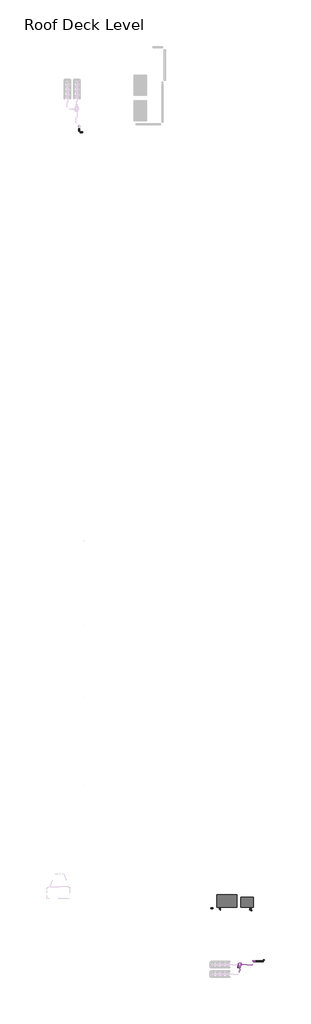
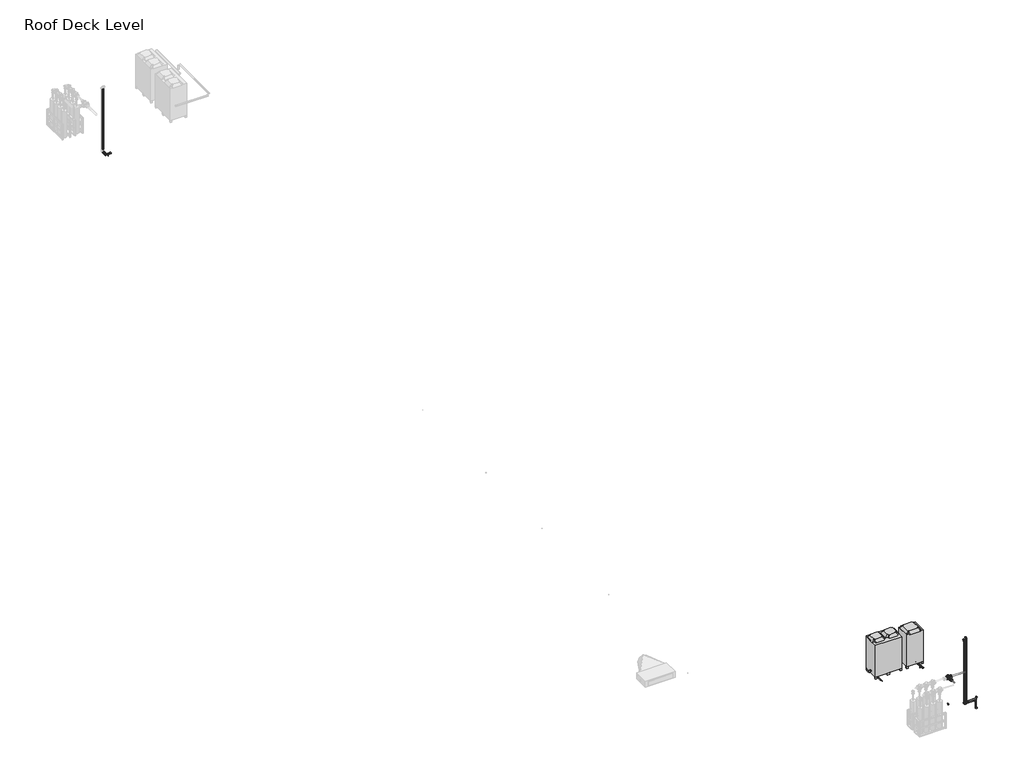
# One storey, part 2 of 3: 24 pipe segments, 21 pipe fittings, 2 proxies.
"""IFC4 building model written with IfcOpenShell, lengths in millimetres."""

from ifc_helpers import new_model, si_unit, point, frame, frame_2d, origin, place, context, project, spatial, circle_curve, trimmed, segment, composite_curve, outline, extrude, transform, mapped, element, save
from components import mechanical_equipment_0a6ad74e, mechanical_equipment_ce02502f, m_bend_pvc_sch_40_dwv_standard_cad9babd, m_elbow_generic_standard_bb5ffebe, m_elbow_generic_standard_738589b0, m_elbow_generic_standard_f0c60a04, m_reducer_flanged_cs_class_150_standard_13db1923, m_tee_generic_standard_5078887e, m_tee_generic_standard_bbfc025c, m_tee_round_base_flanged_cs_class_150_standard_dd767e04, m_transition_generic_standard_a7d161d7, m_transition_generic_standard_5f8a9689, m_transition_generic_standard_2351da66, m_transition_generic_standard_22c7c9f4, m_transition_generic_standard_e868cdd7, standard_57727813, standard_102e5625

model = new_model("IFC4")

# Units and contexts
model_context = context("Model", 3, world=origin())
ifc_project = project(units=[si_unit("LENGTHUNIT", "METRE", prefix="MILLI")], contexts=[model_context])

# Site, building, storey
site = spatial("IfcSite", under=ifc_project)
building = spatial("IfcBuilding", under=site)
storey = spatial("IfcBuildingStorey", under=building, Name="Roof Deck Level", Elevation=4400.0)

# Proxies
placement = place(None, origin())
mechanical_equipment_shape = mechanical_equipment_0a6ad74e(model_context)
element("IfcBuildingElementProxy", 1, Name="Condenser-Daikin-RXYQ5-8-10-12P : INVALID TYPE - Use Load Family and Type Catalog Instead", ObjectType="Condenser-Daikin-RXYQ5-8-10-12P : INVALID TYPE - Use Load Family and Type Catalog Instead", at=placement, inside=storey, context=model_context, shape_type="MappedRepresentation", body=[
    mapped(mechanical_equipment_shape, transform((4557.5244316, -32172.0946353, 4650.0), x_axis=(0.0, 1.0, 0.0), y_axis=(-1.0, 0.0, 0.0), z_axis=(0.0, 0.0, 1.0))),
])
mechanical_equipment_2_shape = mechanical_equipment_ce02502f(model_context)
element("IfcBuildingElementProxy", 2, Name="Condenser-Daikin-RXYQ14-16-18P : RXYQ14P, 400v/50Hz/3Ph", ObjectType="Condenser-Daikin-RXYQ14-16-18P : RXYQ14P, 400v/50Hz/3Ph", at=placement, inside=storey, context=model_context, shape_type="MappedRepresentation", body=[
    mapped(mechanical_equipment_2_shape, transform((3320.1659448, -32107.0946353, 4650.0), x_axis=(1.0, 0.0, 0.0), y_axis=(0.0, 1.0, 0.0), z_axis=(0.0, 0.0, 1.0))),
])

# Pipe fittings
m_bend_pvc_sch_40_dwv_standard_shape = m_bend_pvc_sch_40_dwv_standard_cad9babd(model_context)
element("IfcPipeFitting", 3, ObjectType="M_Bend - PVC - Sch 40 - DWV : Standard", at=placement, inside=storey, context=model_context, shape_type="MappedRepresentation", body=[
    mapped(m_bend_pvc_sch_40_dwv_standard_shape, transform((2381.9230162, -32554.2948449, 5200.0), x_axis=(-1.0, 0.0, 0.0), y_axis=(0.0, 0.0, -1.0), z_axis=(0.0, -1.0, 0.0))),
])
m_elbow_generic_standard_shape = m_elbow_generic_standard_bb5ffebe(model_context)
element("IfcPipeFitting", 4, ObjectType="M_Elbow - Generic : Standard", at=placement, inside=storey, context=model_context, shape_type="MappedRepresentation", body=[
    mapped(m_elbow_generic_standard_shape, transform((2867.2893107, -32322.8712695, 4621.4908765), x_axis=(-1.0, 0.0, 0.0), y_axis=(0.0, -1.0, 0.0), z_axis=(0.0, 0.0, 1.0))),
])
element("IfcPipeFitting", 5, ObjectType="M_Elbow - Generic : Standard", at=placement, inside=storey, context=model_context, shape_type="MappedRepresentation", body=[
    mapped(m_elbow_generic_standard_shape, transform((2911.2893107, -32322.8712695, 4621.4908765), x_axis=(0.0, 0.0, -1.0), y_axis=(-1.0, 0.0, 0.0), z_axis=(0.0, 1.0, 0.0))),
])
m_elbow_generic_standard_2_shape = m_elbow_generic_standard_738589b0(model_context)
element("IfcPipeFitting", 6, ObjectType="M_Elbow - Generic : Standard", at=placement, inside=storey, context=model_context, shape_type="MappedRepresentation", body=[
    mapped(m_elbow_generic_standard_2_shape, transform((4741.5205946, -32248.2907983, 4621.4908765), x_axis=(0.0, 0.0, -1.0), y_axis=(0.0, -1.0, 0.0), z_axis=(-1.0, 0.0, 0.0))),
])
element("IfcPipeFitting", 7, ObjectType="M_Elbow - Generic : Standard", at=placement, inside=storey, context=model_context, shape_type="MappedRepresentation", body=[
    mapped(m_elbow_generic_standard_2_shape, transform((4827.3282685, -32333.9984723, 4591.0863665), x_axis=(0.0, 0.0, -1.0), y_axis=(0.0, -1.0, 0.0), z_axis=(-1.0, 0.0, 0.0))),
])
m_elbow_generic_standard_3_shape = m_elbow_generic_standard_f0c60a04(model_context)
element("IfcPipeFitting", 8, ObjectType="M_Elbow - Generic : Standard", at=placement, inside=storey, context=model_context, shape_type="MappedRepresentation", body=[
    mapped(m_elbow_generic_standard_3_shape, transform((2911.3621079, -32360.9984723, 4591.0863665), x_axis=(0.0, 0.0, -1.0), y_axis=(0.0, -1.0, 0.0), z_axis=(-1.0, 0.0, 0.0))),
])
m_reducer_flanged_cs_class_150_standard_shape = m_reducer_flanged_cs_class_150_standard_13db1923(model_context)
element("IfcPipeFitting", 9, ObjectType="M_Reducer - Flanged - CS - Class 150 : Standard", at=placement, inside=storey, context=model_context, shape_type="MappedRepresentation", body=[
    mapped(m_reducer_flanged_cs_class_150_standard_shape, transform((4105.5817536, -36147.7985971, 6400.0), x_axis=(0.0, -1.0, 0.0), y_axis=(1.0, 0.0, 0.0), z_axis=(0.0, 0.0, 1.0))),
])
m_tee_generic_standard_shape = m_tee_generic_standard_5078887e(model_context)
element("IfcPipeFitting", 10, ObjectType="M_Tee - Generic : Standard", at=placement, inside=storey, context=model_context, shape_type="MappedRepresentation", body=[
    mapped(m_tee_generic_standard_shape, transform((4827.3282685, -32691.5527522, 4591.0863665), x_axis=(1.0, 0.0, 0.0), y_axis=(0.0, -1.0, 0.0), z_axis=(0.0, 0.0, -1.0))),
])
m_tee_generic_standard_2_shape = m_tee_generic_standard_bbfc025c(model_context)
element("IfcPipeFitting", 11, ObjectType="M_Tee - Generic : Standard", at=placement, inside=storey, context=model_context, shape_type="MappedRepresentation", body=[
    mapped(m_tee_generic_standard_2_shape, transform((4741.5205946, -32638.716218, 4621.4908765), x_axis=(-1.0, 0.0, 0.0), y_axis=(0.0, -1.0, 0.0), z_axis=(0.0, 0.0, 1.0))),
])
m_tee_round_base_flanged_cs_class_150_standard_shape = m_tee_round_base_flanged_cs_class_150_standard_dd767e04(model_context)
element("IfcPipeFitting", 12, ObjectType="M_Tee Round Base - Flanged - CS - Class 150 : Standard", at=placement, inside=storey, context=model_context, shape_type="MappedRepresentation", body=[
    mapped(m_tee_round_base_flanged_cs_class_150_standard_shape, transform((4105.5817536, -36033.7985971, 6400.0), x_axis=(-1.0, 0.0, 0.0), y_axis=(0.0, 1.0, 0.0), z_axis=(0.0, 0.0, -1.0))),
])
m_transition_generic_standard_shape = m_transition_generic_standard_a7d161d7(model_context)
element("IfcPipeFitting", 13, ObjectType="M_Transition - Generic : Standard", at=placement, inside=storey, context=model_context, shape_type="MappedRepresentation", body=[
    mapped(m_transition_generic_standard_shape, transform((4803.5157685, -32691.5527522, 4591.0863665), x_axis=(-1.0, 0.0, 0.0), y_axis=(0.0, -1.0, 0.0), z_axis=(0.0, 0.0, 1.0))),
])
m_transition_generic_standard_2_shape = m_transition_generic_standard_5f8a9689(model_context)
element("IfcPipeFitting", 14, ObjectType="M_Transition - Generic : Standard", at=placement, inside=storey, context=model_context, shape_type="MappedRepresentation", body=[
    mapped(m_transition_generic_standard_2_shape, transform((4851.1407685, -32691.5527522, 4591.0863665), x_axis=(1.0, 0.0, 0.0), y_axis=(0.0, 1.0, 0.0), z_axis=(0.0, 0.0, 1.0))),
])
m_transition_generic_standard_3_shape = m_transition_generic_standard_2351da66(model_context)
element("IfcPipeFitting", 15, ObjectType="M_Transition - Generic : Standard", at=placement, inside=storey, context=model_context, shape_type="MappedRepresentation", body=[
    mapped(m_transition_generic_standard_3_shape, transform((4741.5205946, -32613.316218, 4621.4908765), x_axis=(0.0, 1.0, 0.0), y_axis=(-1.0, 0.0, 0.0), z_axis=(0.0, 0.0, 1.0))),
])
m_transition_generic_standard_4_shape = m_transition_generic_standard_22c7c9f4(model_context)
element("IfcPipeFitting", 16, ObjectType="M_Transition - Generic : Standard", at=placement, inside=storey, context=model_context, shape_type="MappedRepresentation", body=[
    mapped(m_transition_generic_standard_4_shape, transform((4716.1205946, -32638.716218, 4621.4908765), x_axis=(-1.0, 0.0, 0.0), y_axis=(0.0, -1.0, 0.0), z_axis=(0.0, 0.0, 1.0))),
])
m_transition_generic_standard_5_shape = m_transition_generic_standard_e868cdd7(model_context)
element("IfcPipeFitting", 17, ObjectType="M_Transition - Generic : Standard", at=placement, inside=storey, context=model_context, shape_type="MappedRepresentation", body=[
    mapped(m_transition_generic_standard_5_shape, transform((2911.3621079, -32360.9984723, 4708.7502), x_axis=(0.0, 0.0, 1.0), y_axis=(0.0, 1.0, 0.0), z_axis=(-1.0, 0.0, 0.0))),
])
standard_shape = standard_57727813(model_context)
element("IfcPipeFitting", 18, ObjectType="M_Elbow - CPVC - Sch 40 : Standard", at=placement, inside=storey, context=model_context, shape_type="MappedRepresentation", body=[
    mapped(standard_shape, transform((5045.1617227, -35819.459752, 4719.8375), x_axis=(-1.0, 0.0, 0.0), y_axis=(0.0, 0.0, 1.0), z_axis=(0.0, 1.0, 0.0))),
])
element("IfcPipeFitting", 19, ObjectType="M_Elbow - CPVC - Sch 40 : Standard", at=placement, inside=storey, context=model_context, shape_type="MappedRepresentation", body=[
    mapped(standard_shape, transform((5045.1617227, -35819.459752, 7892.2), x_axis=(0.0, 0.0, 1.0), y_axis=(0.0, 1.0, 0.0), z_axis=(-1.0, 0.0, 0.0))),
])
standard_2_shape = standard_102e5625(model_context)
element("IfcPipeFitting", 20, ObjectType="M_Elbow - CPVC - Sch 40 : Standard", at=placement, inside=storey, context=model_context, shape_type="MappedRepresentation", body=[
    mapped(standard_2_shape, transform((4953.4766944, -35819.459752, 4650.0), x_axis=(-1.0, 0.0, 0.0), y_axis=(0.0, 0.0, 1.0), z_axis=(0.0, 1.0, 0.0))),
])
element("IfcPipeFitting", 21, ObjectType="M_Elbow - CPVC - Sch 40 : Standard", at=placement, inside=storey, context=model_context, shape_type="MappedRepresentation", body=[
    mapped(standard_2_shape, transform((4953.4766944, -35819.459752, 7820.0), x_axis=(0.0, 0.0, 1.0), y_axis=(0.0, 1.0, 0.0), z_axis=(-1.0, 0.0, 0.0))),
])
element("IfcPipeFitting", 22, ObjectType="M_Elbow - CPVC - Sch 40 : Standard", at=placement, inside=storey, context=model_context, shape_type="MappedRepresentation", body=[
    mapped(standard_2_shape, transform((5495.7577444, -35819.459752, 4650.0), x_axis=(1.0, 0.0, 0.0), y_axis=(0.0, 0.0, -1.0), z_axis=(0.0, 1.0, 0.0))),
])
element("IfcPipeFitting", 23, ObjectType="M_Elbow - CPVC - Sch 40 : Standard", at=placement, inside=storey, context=model_context, shape_type="MappedRepresentation", body=[
    mapped(standard_2_shape, transform((5495.7577444, -35819.459752, 4250.0), x_axis=(0.0, 0.0, -1.0), y_axis=(1.0, 0.0, 0.0), z_axis=(0.0, -1.0, 0.0))),
])

# Pipe segments
element("IfcPipeSegment", 24, ObjectType="CPVC", at=placement, inside=storey, context=model_context, shape_type="SweptSolid", body=[
    extrude(outline(composite_curve([segment(trimmed(circle_curve(frame_2d((15389.9865561, 4650.0)), 24.13), [point((15414.1165561, 4650.0))], [point((15389.9865561, 4625.87))], False, "CARTESIAN"), True, "CONTINUOUS"), segment(trimmed(circle_curve(frame_2d((15389.9865561, 4650.0)), 24.13), [point((15389.9865561, 4625.87))], [point((15365.8565561, 4650.0))], False, "CARTESIAN"), True, "CONTINUOUS"), segment(trimmed(circle_curve(frame_2d((15389.9865561, 4650.0)), 24.13), [point((15365.8565561, 4650.0))], [point((15389.9865561, 4674.13))], False, "CARTESIAN"), True, "CONTINUOUS"), segment(trimmed(circle_curve(frame_2d((15389.9865561, 4650.0)), 24.13), [point((15389.9865561, 4674.13))], [point((15414.1165561, 4650.0))], False, "CARTESIAN"), True, "CONTINUOUS")], self_intersect=False)), frame((-5768.2839899, 0.0, 0.0), z_axis=(1.0, 0.0, 0.0), x_axis=(0.0, 1.0, 0.0)), (0.0, 0.0, 1.0), 7.2590252),
])
element("IfcPipeSegment", 25, ObjectType="CPVC", at=placement, inside=storey, context=model_context, shape_type="SweptSolid", body=[
    extrude(outline(composite_curve([segment(trimmed(circle_curve(frame_2d((15389.9865561, 4719.8375)), 30.1625), [point((15420.1490561, 4719.8375))], [point((15389.9865561, 4689.675))], False, "CARTESIAN"), True, "CONTINUOUS"), segment(trimmed(circle_curve(frame_2d((15389.9865561, 4719.8375)), 30.1625), [point((15389.9865561, 4689.675))], [point((15359.8240561, 4719.8375))], False, "CARTESIAN"), True, "CONTINUOUS"), segment(trimmed(circle_curve(frame_2d((15389.9865561, 4719.8375)), 30.1625), [point((15359.8240561, 4719.8375))], [point((15389.9865561, 4750.0))], False, "CARTESIAN"), True, "CONTINUOUS"), segment(trimmed(circle_curve(frame_2d((15389.9865561, 4719.8375)), 30.1625), [point((15389.9865561, 4750.0))], [point((15420.1490561, 4719.8375))], False, "CARTESIAN"), True, "CONTINUOUS")], self_intersect=False)), frame((-5766.7091899, 0.0, 0.0), z_axis=(1.0, 0.0, 0.0), x_axis=(0.0, 1.0, 0.0)), (0.0, 0.0, 1.0), 141.7006806),
])
element("IfcPipeSegment", 26, ObjectType="CPVC", at=placement, inside=storey, context=model_context, shape_type="SweptSolid", body=[
    extrude(outline(composite_curve([segment(trimmed(circle_curve(frame_2d((4719.8375, -5831.0029399)), 30.1625), [point((4719.8375, -5800.8404399))], [point((4750.0, -5831.0029399))], False, "CARTESIAN"), True, "CONTINUOUS"), segment(trimmed(circle_curve(frame_2d((4719.8375, -5831.0029399)), 30.1625), [point((4750.0, -5831.0029399))], [point((4719.8375, -5861.1654399))], False, "CARTESIAN"), True, "CONTINUOUS"), segment(trimmed(circle_curve(frame_2d((4719.8375, -5831.0029399)), 30.1625), [point((4719.8375, -5861.1654399))], [point((4689.675, -5831.0029399))], False, "CARTESIAN"), True, "CONTINUOUS"), segment(trimmed(circle_curve(frame_2d((4719.8375, -5831.0029399)), 30.1625), [point((4689.675, -5831.0029399))], [point((4719.8375, -5800.8404399))], False, "CARTESIAN"), True, "CONTINUOUS")], self_intersect=False)), frame((0.0, 15454.2803061, 0.0), z_axis=(0.0, 1.0, 0.0), x_axis=(0.0, 0.0, 1.0)), (0.0, 0.0, 1.0), 171.4125),
])
element("IfcPipeSegment", 27, ObjectType="CPVC", at=placement, inside=storey, context=model_context, shape_type="SweptSolid", body=[
    extrude(outline(composite_curve([segment(trimmed(circle_curve(frame_2d((4650.0, -5831.0029399)), 24.13), [point((4650.0, -5806.8729399))], [point((4674.13, -5831.0029399))], False, "CARTESIAN"), True, "CONTINUOUS"), segment(trimmed(circle_curve(frame_2d((4650.0, -5831.0029399)), 24.13), [point((4674.13, -5831.0029399))], [point((4650.0, -5855.1329399))], False, "CARTESIAN"), True, "CONTINUOUS"), segment(trimmed(circle_curve(frame_2d((4650.0, -5831.0029399)), 24.13), [point((4650.0, -5855.1329399))], [point((4625.87, -5831.0029399))], False, "CARTESIAN"), True, "CONTINUOUS"), segment(trimmed(circle_curve(frame_2d((4650.0, -5831.0029399)), 24.13), [point((4625.87, -5831.0029399))], [point((4650.0, -5806.8729399))], False, "CARTESIAN"), True, "CONTINUOUS")], self_intersect=False)), frame((0.0, 15452.7055061, 0.0), z_axis=(0.0, 1.0, 0.0), x_axis=(0.0, 0.0, 1.0)), (0.0, 0.0, 1.0), 274.5621),
])
element("IfcPipeSegment", 28, ObjectType="CPVC", at=placement, inside=storey, context=model_context, shape_type="SweptSolid", body=[
    extrude(outline(composite_curve([segment(trimmed(circle_curve(frame_2d((4719.8375, 5585.1617227)), 30.1625), [point((4719.8375, 5554.9992227))], [point((4689.675, 5585.1617227))], False, "CARTESIAN"), True, "CONTINUOUS"), segment(trimmed(circle_curve(frame_2d((4719.8375, 5585.1617227)), 30.1625), [point((4689.675, 5585.1617227))], [point((4719.8375, 5615.3242227))], False, "CARTESIAN"), True, "CONTINUOUS"), segment(trimmed(circle_curve(frame_2d((4719.8375, 5585.1617227)), 30.1625), [point((4719.8375, 5615.3242227))], [point((4750.0, 5585.1617227))], False, "CARTESIAN"), True, "CONTINUOUS"), segment(trimmed(circle_curve(frame_2d((4719.8375, 5585.1617227)), 30.1625), [point((4750.0, 5585.1617227))], [point((4719.8375, 5554.9992227))], False, "CARTESIAN"), True, "CONTINUOUS")], self_intersect=False)), frame((0.0, -35755.166002, 0.0), z_axis=(0.0, 1.0, 0.0), x_axis=(0.0, 0.0, 1.0)), (0.0, 0.0, 1.0), 37.3171752),
])
element("IfcPipeSegment", 29, ObjectType="CPVC", at=placement, inside=storey, context=model_context, shape_type="SweptSolid", body=[
    extrude(outline(composite_curve([segment(trimmed(circle_curve(frame_2d((-35819.459752, 4719.8375)), 30.1625), [point((-35789.297252, 4719.8375))], [point((-35819.459752, 4689.675))], False, "CARTESIAN"), True, "CONTINUOUS"), segment(trimmed(circle_curve(frame_2d((-35819.459752, 4719.8375)), 30.1625), [point((-35819.459752, 4689.675))], [point((-35849.622252, 4719.8375))], False, "CARTESIAN"), True, "CONTINUOUS"), segment(trimmed(circle_curve(frame_2d((-35819.459752, 4719.8375)), 30.1625), [point((-35849.622252, 4719.8375))], [point((-35819.459752, 4750.0))], False, "CARTESIAN"), True, "CONTINUOUS"), segment(trimmed(circle_curve(frame_2d((-35819.459752, 4719.8375)), 30.1625), [point((-35819.459752, 4750.0))], [point((-35789.297252, 4719.8375))], False, "CARTESIAN"), True, "CONTINUOUS")], self_intersect=False)), frame((5109.4554727, 0.0, 0.0), z_axis=(1.0, 0.0, 0.0), x_axis=(0.0, 1.0, 0.0)), (0.0, 0.0, 1.0), 411.4125),
])
element("IfcPipeSegment", 30, ObjectType="CPVC", at=placement, inside=storey, context=model_context, shape_type="SweptSolid", body=[
    extrude(outline(composite_curve([segment(trimmed(circle_curve(frame_2d((-35819.459752, 4650.0)), 24.13), [point((-35795.329752, 4650.0))], [point((-35819.459752, 4625.87))], False, "CARTESIAN"), True, "CONTINUOUS"), segment(trimmed(circle_curve(frame_2d((-35819.459752, 4650.0)), 24.13), [point((-35819.459752, 4625.87))], [point((-35843.589752, 4650.0))], False, "CARTESIAN"), True, "CONTINUOUS"), segment(trimmed(circle_curve(frame_2d((-35819.459752, 4650.0)), 24.13), [point((-35843.589752, 4650.0))], [point((-35819.459752, 4674.13))], False, "CARTESIAN"), True, "CONTINUOUS"), segment(trimmed(circle_curve(frame_2d((-35819.459752, 4650.0)), 24.13), [point((-35819.459752, 4674.13))], [point((-35795.329752, 4650.0))], False, "CARTESIAN"), True, "CONTINUOUS")], self_intersect=False)), frame((5016.1956444, 0.0, 0.0), z_axis=(1.0, 0.0, 0.0), x_axis=(0.0, 1.0, 0.0)), (0.0, 0.0, 1.0), 416.84315),
])
element("IfcPipeSegment", 31, ObjectType="CPVC", at=placement, inside=storey, context=model_context, shape_type="SweptSolid", body=[
    extrude(outline(composite_curve([segment(trimmed(circle_curve(frame_2d((4953.4766944, -35819.459752)), 24.13), [point((4929.3466944, -35819.459752))], [point((4953.4766944, -35795.329752))], False, "CARTESIAN"), True, "CONTINUOUS"), segment(trimmed(circle_curve(frame_2d((4953.4766944, -35819.459752)), 24.13), [point((4953.4766944, -35795.329752))], [point((4977.6066944, -35819.459752))], False, "CARTESIAN"), True, "CONTINUOUS"), segment(trimmed(circle_curve(frame_2d((4953.4766944, -35819.459752)), 24.13), [point((4977.6066944, -35819.459752))], [point((4953.4766944, -35843.589752))], False, "CARTESIAN"), True, "CONTINUOUS"), segment(trimmed(circle_curve(frame_2d((4953.4766944, -35819.459752)), 24.13), [point((4953.4766944, -35843.589752))], [point((4929.3466944, -35819.459752))], False, "CARTESIAN"), True, "CONTINUOUS")], self_intersect=False)), frame((0.0, 0.0, 4712.71895), z_axis=(0.0, 0.0, 1.0), x_axis=(1.0, 0.0, 0.0)), (0.0, 0.0, 1.0), 3044.5621),
])
element("IfcPipeSegment", 32, ObjectType="CPVC", at=placement, inside=storey, context=model_context, shape_type="SweptSolid", body=[
    extrude(outline(composite_curve([segment(trimmed(circle_curve(frame_2d((5045.1617227, -35819.459752)), 30.1625), [point((5014.9992227, -35819.459752))], [point((5045.1617227, -35789.297252))], False, "CARTESIAN"), True, "CONTINUOUS"), segment(trimmed(circle_curve(frame_2d((5045.1617227, -35819.459752)), 30.1625), [point((5045.1617227, -35789.297252))], [point((5075.3242227, -35819.459752))], False, "CARTESIAN"), True, "CONTINUOUS"), segment(trimmed(circle_curve(frame_2d((5045.1617227, -35819.459752)), 30.1625), [point((5075.3242227, -35819.459752))], [point((5045.1617227, -35849.622252))], False, "CARTESIAN"), True, "CONTINUOUS"), segment(trimmed(circle_curve(frame_2d((5045.1617227, -35819.459752)), 30.1625), [point((5045.1617227, -35849.622252))], [point((5014.9992227, -35819.459752))], False, "CARTESIAN"), True, "CONTINUOUS")], self_intersect=False)), frame((0.0, 0.0, 4784.13125), z_axis=(0.0, 0.0, 1.0), x_axis=(1.0, 0.0, 0.0)), (0.0, 0.0, 1.0), 3043.775),
])
element("IfcPipeSegment", 33, ObjectType="CPVC", at=placement, inside=storey, context=model_context, shape_type="SweptSolid", body=[
    extrude(outline(composite_curve([segment(trimmed(circle_curve(frame_2d((-5831.0029399, 15689.9865561)), 30.1625), [point((-5861.1654399, 15689.9865561))], [point((-5831.0029399, 15720.1490561))], False, "CARTESIAN"), True, "CONTINUOUS"), segment(trimmed(circle_curve(frame_2d((-5831.0029399, 15689.9865561)), 30.1625), [point((-5831.0029399, 15720.1490561))], [point((-5800.8404399, 15689.9865561))], False, "CARTESIAN"), True, "CONTINUOUS"), segment(trimmed(circle_curve(frame_2d((-5831.0029399, 15689.9865561)), 30.1625), [point((-5800.8404399, 15689.9865561))], [point((-5831.0029399, 15659.8240561))], False, "CARTESIAN"), True, "CONTINUOUS"), segment(trimmed(circle_curve(frame_2d((-5831.0029399, 15689.9865561)), 30.1625), [point((-5831.0029399, 15659.8240561))], [point((-5861.1654399, 15689.9865561))], False, "CARTESIAN"), True, "CONTINUOUS")], self_intersect=False)), frame((0.0, 0.0, 4784.13125), z_axis=(0.0, 0.0, 1.0), x_axis=(1.0, 0.0, 0.0)), (0.0, 0.0, 1.0), 3043.775),
])
element("IfcPipeSegment", 34, ObjectType="CPVC", at=placement, inside=storey, context=model_context, shape_type="SweptSolid", body=[
    extrude(outline(composite_curve([segment(trimmed(circle_curve(frame_2d((5495.7577444, -35819.459752)), 24.13), [point((5519.8877444, -35819.459752))], [point((5495.7577444, -35843.589752))], False, "CARTESIAN"), True, "CONTINUOUS"), segment(trimmed(circle_curve(frame_2d((5495.7577444, -35819.459752)), 24.13), [point((5495.7577444, -35843.589752))], [point((5471.6277444, -35819.459752))], False, "CARTESIAN"), True, "CONTINUOUS"), segment(trimmed(circle_curve(frame_2d((5495.7577444, -35819.459752)), 24.13), [point((5471.6277444, -35819.459752))], [point((5495.7577444, -35795.329752))], False, "CARTESIAN"), True, "CONTINUOUS"), segment(trimmed(circle_curve(frame_2d((5495.7577444, -35819.459752)), 24.13), [point((5495.7577444, -35795.329752))], [point((5519.8877444, -35819.459752))], False, "CARTESIAN"), True, "CONTINUOUS")], self_intersect=False)), frame((0.0, 0.0, 4312.71895), z_axis=(0.0, 0.0, 1.0), x_axis=(1.0, 0.0, 0.0)), (0.0, 0.0, 1.0), 274.5621),
])
element("IfcPipeSegment", 35, ObjectType="Copper", at=placement, inside=storey, context=model_context, shape_type="SweptSolid", body=[
    extrude(outline(composite_curve([segment(trimmed(circle_curve(frame_2d((4741.5205946, -32248.2907983)), 9.75), [point((4751.2705946, -32248.2907983))], [point((4741.5205946, -32258.0407983))], False, "CARTESIAN"), True, "CONTINUOUS"), segment(trimmed(circle_curve(frame_2d((4741.5205946, -32248.2907983)), 9.75), [point((4741.5205946, -32258.0407983))], [point((4731.7705946, -32248.2907983))], False, "CARTESIAN"), True, "CONTINUOUS"), segment(trimmed(circle_curve(frame_2d((4741.5205946, -32248.2907983)), 9.75), [point((4731.7705946, -32248.2907983))], [point((4741.5205946, -32238.5407983))], False, "CARTESIAN"), True, "CONTINUOUS"), segment(trimmed(circle_curve(frame_2d((4741.5205946, -32248.2907983)), 9.75), [point((4741.5205946, -32238.5407983))], [point((4751.2705946, -32248.2907983))], False, "CARTESIAN"), True, "CONTINUOUS")], self_intersect=False)), frame((0.0, 0.0, 4638.9533765), z_axis=(0.0, 0.0, 1.0), x_axis=(1.0, 0.0, 0.0)), (0.0, 0.0, 1.0), 72.9718235),
])
element("IfcPipeSegment", 36, ObjectType="Copper", at=placement, inside=storey, context=model_context, shape_type="SweptSolid", body=[
    extrude(outline(composite_curve([segment(trimmed(circle_curve(frame_2d((4621.4908765, 4741.5205946)), 9.75), [point((4621.4908765, 4731.7705946))], [point((4611.7408765, 4741.5205946))], False, "CARTESIAN"), True, "CONTINUOUS"), segment(trimmed(circle_curve(frame_2d((4621.4908765, 4741.5205946)), 9.75), [point((4611.7408765, 4741.5205946))], [point((4621.4908765, 4751.2705946))], False, "CARTESIAN"), True, "CONTINUOUS"), segment(trimmed(circle_curve(frame_2d((4621.4908765, 4741.5205946)), 9.75), [point((4621.4908765, 4751.2705946))], [point((4631.2408765, 4741.5205946))], False, "CARTESIAN"), True, "CONTINUOUS"), segment(trimmed(circle_curve(frame_2d((4621.4908765, 4741.5205946)), 9.75), [point((4631.2408765, 4741.5205946))], [point((4621.4908765, 4731.7705946))], False, "CARTESIAN"), True, "CONTINUOUS")], self_intersect=False)), frame((0.0, -32606.966218, 0.0), z_axis=(0.0, 1.0, 0.0), x_axis=(0.0, 0.0, 1.0)), (0.0, 0.0, 1.0), 341.2129197),
])
element("IfcPipeSegment", 37, ObjectType="Copper", at=placement, inside=storey, context=model_context, shape_type="SweptSolid", body=[
    extrude(outline(composite_curve([segment(trimmed(circle_curve(frame_2d((4827.3282685, -32333.9984723)), 9.75), [point((4837.0782685, -32333.9984723))], [point((4827.3282685, -32343.7484723))], False, "CARTESIAN"), True, "CONTINUOUS"), segment(trimmed(circle_curve(frame_2d((4827.3282685, -32333.9984723)), 9.75), [point((4827.3282685, -32343.7484723))], [point((4817.5782685, -32333.9984723))], False, "CARTESIAN"), True, "CONTINUOUS"), segment(trimmed(circle_curve(frame_2d((4827.3282685, -32333.9984723)), 9.75), [point((4817.5782685, -32333.9984723))], [point((4827.3282685, -32324.2484723))], False, "CARTESIAN"), True, "CONTINUOUS"), segment(trimmed(circle_curve(frame_2d((4827.3282685, -32333.9984723)), 9.75), [point((4827.3282685, -32324.2484723))], [point((4837.0782685, -32333.9984723))], False, "CARTESIAN"), True, "CONTINUOUS")], self_intersect=False)), frame((0.0, 0.0, 4608.5488665), z_axis=(0.0, 0.0, 1.0), x_axis=(1.0, 0.0, 0.0)), (0.0, 0.0, 1.0), 103.3763335),
])
element("IfcPipeSegment", 38, ObjectType="Copper", at=placement, inside=storey, context=model_context, shape_type="SweptSolid", body=[
    extrude(outline(composite_curve([segment(trimmed(circle_curve(frame_2d((4591.0863665, 4827.3282685)), 9.75), [point((4591.0863665, 4817.5782685))], [point((4581.3363665, 4827.3282685))], False, "CARTESIAN"), True, "CONTINUOUS"), segment(trimmed(circle_curve(frame_2d((4591.0863665, 4827.3282685)), 9.75), [point((4581.3363665, 4827.3282685))], [point((4591.0863665, 4837.0782685))], False, "CARTESIAN"), True, "CONTINUOUS"), segment(trimmed(circle_curve(frame_2d((4591.0863665, 4827.3282685)), 9.75), [point((4591.0863665, 4837.0782685))], [point((4600.8363665, 4827.3282685))], False, "CARTESIAN"), True, "CONTINUOUS"), segment(trimmed(circle_curve(frame_2d((4591.0863665, 4827.3282685)), 9.75), [point((4600.8363665, 4827.3282685))], [point((4591.0863665, 4817.5782685))], False, "CARTESIAN"), True, "CONTINUOUS")], self_intersect=False)), frame((0.0, -32667.7402522, 0.0), z_axis=(0.0, 1.0, 0.0), x_axis=(0.0, 0.0, 1.0)), (0.0, 0.0, 1.0), 316.27928),
])
element("IfcPipeSegment", 39, ObjectType="Copper", at=placement, inside=storey, context=model_context, shape_type="SweptSolid", body=[
    extrude(outline(composite_curve([segment(trimmed(circle_curve(frame_2d((2911.2893107, -32322.8712695)), 8.1), [point((2919.3893107, -32322.8712695))], [point((2911.2893107, -32330.9712695))], False, "CARTESIAN"), True, "CONTINUOUS"), segment(trimmed(circle_curve(frame_2d((2911.2893107, -32322.8712695)), 8.1), [point((2911.2893107, -32330.9712695))], [point((2903.1893107, -32322.8712695))], False, "CARTESIAN"), True, "CONTINUOUS"), segment(trimmed(circle_curve(frame_2d((2911.2893107, -32322.8712695)), 8.1), [point((2903.1893107, -32322.8712695))], [point((2911.2893107, -32314.7712695))], False, "CARTESIAN"), True, "CONTINUOUS"), segment(trimmed(circle_curve(frame_2d((2911.2893107, -32322.8712695)), 8.1), [point((2911.2893107, -32314.7712695))], [point((2919.3893107, -32322.8712695))], False, "CARTESIAN"), True, "CONTINUOUS")], self_intersect=False)), frame((0.0, 0.0, 4637.3658765), z_axis=(0.0, 0.0, 1.0), x_axis=(1.0, 0.0, 0.0)), (0.0, 0.0, 1.0), 74.5593235),
])
element("IfcPipeSegment", 40, ObjectType="Copper", at=placement, inside=storey, context=model_context, shape_type="SweptSolid", body=[
    extrude(outline(composite_curve([segment(trimmed(circle_curve(frame_2d((4621.4908765, 2867.2893107)), 8.1), [point((4621.4908765, 2859.1893107))], [point((4613.3908765, 2867.2893107))], False, "CARTESIAN"), True, "CONTINUOUS"), segment(trimmed(circle_curve(frame_2d((4621.4908765, 2867.2893107)), 8.1), [point((4613.3908765, 2867.2893107))], [point((4621.4908765, 2875.3893107))], False, "CARTESIAN"), True, "CONTINUOUS"), segment(trimmed(circle_curve(frame_2d((4621.4908765, 2867.2893107)), 8.1), [point((4621.4908765, 2875.3893107))], [point((4629.5908765, 2867.2893107))], False, "CARTESIAN"), True, "CONTINUOUS"), segment(trimmed(circle_curve(frame_2d((4621.4908765, 2867.2893107)), 8.1), [point((4629.5908765, 2867.2893107))], [point((4621.4908765, 2859.1893107))], False, "CARTESIAN"), True, "CONTINUOUS")], self_intersect=False)), frame((0.0, -32622.841218, 0.0), z_axis=(0.0, 1.0, 0.0), x_axis=(0.0, 0.0, 1.0)), (0.0, 0.0, 1.0), 284.0949485),
])
element("IfcPipeSegment", 41, ObjectType="Copper", at=placement, inside=storey, context=model_context, shape_type="SweptSolid", body=[
    extrude(outline(composite_curve([segment(trimmed(circle_curve(frame_2d((2911.3621079, -32360.9984723)), 4.9), [point((2916.2621079, -32360.9984723))], [point((2911.3621079, -32365.8984723))], False, "CARTESIAN"), True, "CONTINUOUS"), segment(trimmed(circle_curve(frame_2d((2911.3621079, -32360.9984723)), 4.9), [point((2911.3621079, -32365.8984723))], [point((2906.4621079, -32360.9984723))], False, "CARTESIAN"), True, "CONTINUOUS"), segment(trimmed(circle_curve(frame_2d((2911.3621079, -32360.9984723)), 4.9), [point((2906.4621079, -32360.9984723))], [point((2911.3621079, -32356.0984723))], False, "CARTESIAN"), True, "CONTINUOUS"), segment(trimmed(circle_curve(frame_2d((2911.3621079, -32360.9984723)), 4.9), [point((2911.3621079, -32356.0984723))], [point((2916.2621079, -32360.9984723))], False, "CARTESIAN"), True, "CONTINUOUS")], self_intersect=False)), frame((0.0, 0.0, 4603.7738665), z_axis=(0.0, 0.0, 1.0), x_axis=(1.0, 0.0, 0.0)), (0.0, 0.0, 1.0), 104.9763335),
])
element("IfcPipeSegment", 42, ObjectType="Copper", at=placement, inside=storey, context=model_context, shape_type="SweptSolid", body=[
    extrude(outline(composite_curve([segment(trimmed(circle_curve(frame_2d((4591.0863665, 2911.3621079)), 4.9), [point((4591.0863665, 2906.4621079))], [point((4586.1863665, 2911.3621079))], False, "CARTESIAN"), True, "CONTINUOUS"), segment(trimmed(circle_curve(frame_2d((4591.0863665, 2911.3621079)), 4.9), [point((4586.1863665, 2911.3621079))], [point((4591.0863665, 2916.2621079))], False, "CARTESIAN"), True, "CONTINUOUS"), segment(trimmed(circle_curve(frame_2d((4591.0863665, 2911.3621079)), 4.9), [point((4591.0863665, 2916.2621079))], [point((4595.9863665, 2911.3621079))], False, "CARTESIAN"), True, "CONTINUOUS"), segment(trimmed(circle_curve(frame_2d((4591.0863665, 2911.3621079)), 4.9), [point((4595.9863665, 2911.3621079))], [point((4591.0863665, 2906.4621079))], False, "CARTESIAN"), True, "CONTINUOUS")], self_intersect=False)), frame((0.0, -32678.8652522, 0.0), z_axis=(0.0, 1.0, 0.0), x_axis=(0.0, 0.0, 1.0)), (0.0, 0.0, 1.0), 305.17928),
])
element("IfcPipeSegment", 43, ObjectType="Copper", at=placement, inside=storey, context=model_context, shape_type="SweptSolid", body=[
    extrude(outline(composite_curve([segment(trimmed(circle_curve(frame_2d((-32322.8712695, 4621.4908765)), 8.1), [point((-32330.9712695, 4621.4908765))], [point((-32322.8712695, 4629.5908765))], False, "CARTESIAN"), True, "CONTINUOUS"), segment(trimmed(circle_curve(frame_2d((-32322.8712695, 4621.4908765)), 8.1), [point((-32322.8712695, 4629.5908765))], [point((-32314.7712695, 4621.4908765))], False, "CARTESIAN"), True, "CONTINUOUS"), segment(trimmed(circle_curve(frame_2d((-32322.8712695, 4621.4908765)), 8.1), [point((-32314.7712695, 4621.4908765))], [point((-32322.8712695, 4613.3908765))], False, "CARTESIAN"), True, "CONTINUOUS"), segment(trimmed(circle_curve(frame_2d((-32322.8712695, 4621.4908765)), 8.1), [point((-32322.8712695, 4613.3908765))], [point((-32330.9712695, 4621.4908765))], False, "CARTESIAN"), True, "CONTINUOUS")], self_intersect=False)), frame((2883.1643107, 0.0, 0.0), z_axis=(1.0, 0.0, 0.0), x_axis=(0.0, 1.0, 0.0)), (0.0, 0.0, 1.0), 12.25),
])
element("IfcPipeSegment", 44, ObjectType="PVC - DWV", at=placement, inside=storey, context=model_context, shape_type="SweptSolid", body=[
    extrude(outline(composite_curve([segment(trimmed(circle_curve(frame_2d((-32554.2948449, 5200.0)), 30.1625), [point((-32524.1323449, 5200.0))], [point((-32554.2948449, 5169.8375))], False, "CARTESIAN"), True, "CONTINUOUS"), segment(trimmed(circle_curve(frame_2d((-32554.2948449, 5200.0)), 30.1625), [point((-32554.2948449, 5169.8375))], [point((-32584.4573449, 5200.0))], False, "CARTESIAN"), True, "CONTINUOUS"), segment(trimmed(circle_curve(frame_2d((-32554.2948449, 5200.0)), 30.1625), [point((-32584.4573449, 5200.0))], [point((-32554.2948449, 5230.1625))], False, "CARTESIAN"), True, "CONTINUOUS"), segment(trimmed(circle_curve(frame_2d((-32554.2948449, 5200.0)), 30.1625), [point((-32554.2948449, 5230.1625))], [point((-32524.1323449, 5200.0))], False, "CARTESIAN"), True, "CONTINUOUS")], self_intersect=False)), frame((2439.0730162, 0.0, 0.0), z_axis=(1.0, 0.0, 0.0), x_axis=(0.0, 1.0, 0.0)), (0.0, 0.0, 1.0), 7.7670588),
])
element("IfcPipeSegment", 45, ObjectType="PVC - DWV", at=placement, inside=storey, context=model_context, shape_type="SweptSolid", body=[
    extrude(outline(composite_curve([segment(trimmed(circle_curve(frame_2d((0.0, -36.5125)), 36.5125), [point((0.0, -73.025))], [point((-36.5125, -36.5125))], False, "CARTESIAN"), True, "CONTINUOUS"), segment(trimmed(circle_curve(frame_2d((0.0, -36.5125)), 36.5125), [point((-36.5125, -36.5125))], [point((0.0, 0.0))], False, "CARTESIAN"), True, "CONTINUOUS"), segment(trimmed(circle_curve(frame_2d((0.0, -36.5125)), 36.5125), [point((0.0, 0.0))], [point((36.5125, -36.5125))], False, "CARTESIAN"), True, "CONTINUOUS"), segment(trimmed(circle_curve(frame_2d((0.0, -36.5125)), 36.5125), [point((36.5125, -36.5125))], [point((0.0, -73.025))], False, "CARTESIAN"), True, "CONTINUOUS")], self_intersect=False)), frame((3992.6535258, -36139.6276483, 5199.4075607), z_axis=(-0.999950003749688, 0.0, 0.009999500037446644), x_axis=(0.009999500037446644, 0.0, 0.999950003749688)), (0.0, 0.0, 1.0), 9.2493939),
])
element("IfcPipeSegment", 46, ObjectType="Steel flanged", at=placement, inside=storey, context=model_context, shape_type="SweptSolid", body=[
    extrude(outline(composite_curve([segment(trimmed(circle_curve(frame_2d((-36033.7985971, 6400.0)), 30.1625), [point((-36003.6360971, 6400.0))], [point((-36033.7985971, 6369.8375))], False, "CARTESIAN"), True, "CONTINUOUS"), segment(trimmed(circle_curve(frame_2d((-36033.7985971, 6400.0)), 30.1625), [point((-36033.7985971, 6369.8375))], [point((-36063.9610971, 6400.0))], False, "CARTESIAN"), True, "CONTINUOUS"), segment(trimmed(circle_curve(frame_2d((-36033.7985971, 6400.0)), 30.1625), [point((-36063.9610971, 6400.0))], [point((-36033.7985971, 6430.1625))], False, "CARTESIAN"), True, "CONTINUOUS"), segment(trimmed(circle_curve(frame_2d((-36033.7985971, 6400.0)), 30.1625), [point((-36033.7985971, 6430.1625))], [point((-36003.6360971, 6400.0))], False, "CARTESIAN"), True, "CONTINUOUS")], self_intersect=False)), frame((4219.5817536, 0.0, 0.0), z_axis=(1.0, 0.0, 0.0), x_axis=(0.0, 1.0, 0.0)), (0.0, 0.0, 1.0), 651.0357358),
])
element("IfcPipeSegment", 47, ObjectType="Steel flanged", at=placement, inside=storey, context=model_context, shape_type="SweptSolid", body=[
    extrude(outline(composite_curve([segment(trimmed(circle_curve(frame_2d((6400.0, 4105.5817536)), 21.082), [point((6400.0, 4084.4997536))], [point((6378.918, 4105.5817536))], False, "CARTESIAN"), True, "CONTINUOUS"), segment(trimmed(circle_curve(frame_2d((6400.0, 4105.5817536)), 21.082), [point((6378.918, 4105.5817536))], [point((6400.0, 4126.6637536))], False, "CARTESIAN"), True, "CONTINUOUS"), segment(trimmed(circle_curve(frame_2d((6400.0, 4105.5817536)), 21.082), [point((6400.0, 4126.6637536))], [point((6421.082, 4105.5817536))], False, "CARTESIAN"), True, "CONTINUOUS"), segment(trimmed(circle_curve(frame_2d((6400.0, 4105.5817536)), 21.082), [point((6421.082, 4105.5817536))], [point((6400.0, 4084.4997536))], False, "CARTESIAN"), True, "CONTINUOUS")], self_intersect=False)), frame((0.0, -36512.424167, 0.0), z_axis=(0.0, 1.0, 0.0), x_axis=(0.0, 0.0, 1.0)), (0.0, 0.0, 1.0), 237.6255698),
])

save(model, "model.ifc")
